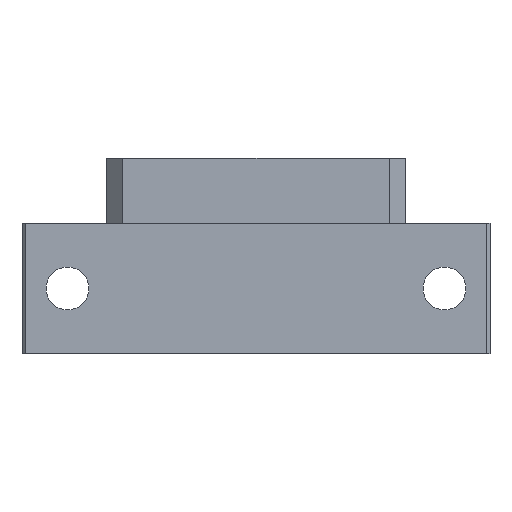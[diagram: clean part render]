
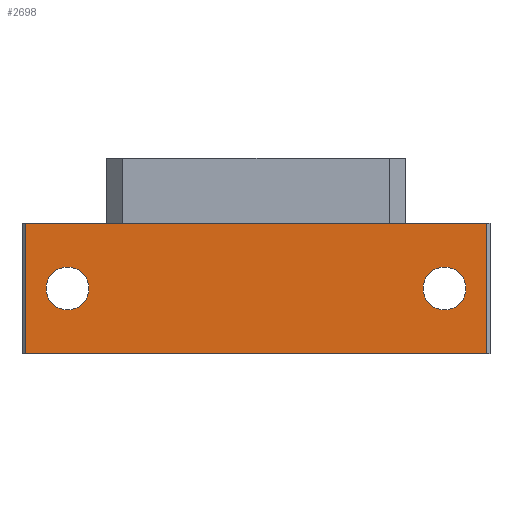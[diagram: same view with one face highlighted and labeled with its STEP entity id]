
A CAD part, front view. The second image highlights one B-rep face of the part: STEP entity #2698.
In plain terms, the highlighted planar face has unit normal (0, -1, 0).
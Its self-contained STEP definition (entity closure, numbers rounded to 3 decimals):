
#9 = CARTESIAN_POINT ( 'NONE',  ( -29., -25., 10. ) ) ;
#177 = EDGE_CURVE ( 'NONE', #5108, #4857, #1725, .T. ) ;
#210 = CARTESIAN_POINT ( 'NONE',  ( 35.5, -25., 20. ) ) ;
#317 = FACE_BOUND ( 'NONE', #1237, .T. ) ;
#364 = VERTEX_POINT ( 'NONE', #2347 ) ;
#372 = EDGE_CURVE ( 'NONE', #364, #614, #1652, .T. ) ;
#464 = LINE ( 'NONE', #2477, #1398 ) ;
#590 = LINE ( 'NONE', #5009, #4243 ) ;
#614 = VERTEX_POINT ( 'NONE', #5093 ) ;
#650 = VECTOR ( 'NONE', #702, 1000. ) ;
#702 = DIRECTION ( 'NONE',  ( 0., 0., -1. ) ) ;
#819 = DIRECTION ( 'NONE',  ( 1., 0., 0. ) ) ;
#988 = CARTESIAN_POINT ( 'NONE',  ( -29., -25., 6.7 ) ) ;
#1198 = DIRECTION ( 'NONE',  ( 0., 1., 0. ) ) ;
#1237 = EDGE_LOOP ( 'NONE', ( #3015, #3512 ) ) ;
#1275 = DIRECTION ( 'NONE',  ( 0., 0., 1. ) ) ;
#1398 = VECTOR ( 'NONE', #819, 1000. ) ;
#1566 = DIRECTION ( 'NONE',  ( 0., 0., 1. ) ) ;
#1573 = ORIENTED_EDGE ( 'NONE', *, *, #3698, .T. ) ;
#1596 = ORIENTED_EDGE ( 'NONE', *, *, #3717, .F. ) ;
#1652 = CIRCLE ( 'NONE', #3166, 3.3 ) ;
#1725 = CIRCLE ( 'NONE', #4771, 3.3 ) ;
#1779 = DIRECTION ( 'NONE',  ( 0., 0., -1. ) ) ;
#1934 = DIRECTION ( 'NONE',  ( 0., 1., 0. ) ) ;
#2055 = CIRCLE ( 'NONE', #2721, 3.3 ) ;
#2098 = ORIENTED_EDGE ( 'NONE', *, *, #4425, .F. ) ;
#2179 = DIRECTION ( 'NONE',  ( 1., 0., 0. ) ) ;
#2190 = VERTEX_POINT ( 'NONE', #2289 ) ;
#2205 = LINE ( 'NONE', #210, #3065 ) ;
#2230 = AXIS2_PLACEMENT_3D ( 'NONE', #3374, #2999, #4651 ) ;
#2260 = VERTEX_POINT ( 'NONE', #2771 ) ;
#2289 = CARTESIAN_POINT ( 'NONE',  ( -35.5, -25., 20. ) ) ;
#2320 = CARTESIAN_POINT ( 'NONE',  ( 29., -25., 10. ) ) ;
#2332 = CARTESIAN_POINT ( 'NONE',  ( 29., -25., 10. ) ) ;
#2347 = CARTESIAN_POINT ( 'NONE',  ( 29., -25., 6.7 ) ) ;
#2450 = DIRECTION ( 'NONE',  ( 0., -1., 0. ) ) ;
#2460 = DIRECTION ( 'NONE',  ( 0., 1., 0. ) ) ;
#2477 = CARTESIAN_POINT ( 'NONE',  ( -35.5, -25., 20. ) ) ;
#2486 = PLANE ( 'NONE',  #3535 ) ;
#2505 = DIRECTION ( 'NONE',  ( 0., 0., 1. ) ) ;
#2682 = LINE ( 'NONE', #4292, #650 ) ;
#2698 = ADVANCED_FACE ( 'NONE', ( #3550, #317, #4901 ), #2486, .F. ) ;
#2721 = AXIS2_PLACEMENT_3D ( 'NONE', #2332, #1934, #3946 ) ;
#2771 = CARTESIAN_POINT ( 'NONE',  ( 35.5, -25., 20. ) ) ;
#2841 = ORIENTED_EDGE ( 'NONE', *, *, #177, .F. ) ;
#2893 = EDGE_LOOP ( 'NONE', ( #1573, #1596, #2098, #3648 ) ) ;
#2999 = DIRECTION ( 'NONE',  ( 0., -1., 0. ) ) ;
#3015 = ORIENTED_EDGE ( 'NONE', *, *, #3902, .T. ) ;
#3065 = VECTOR ( 'NONE', #1779, 1000. ) ;
#3128 = CARTESIAN_POINT ( 'NONE',  ( -29., -25., 13.3 ) ) ;
#3166 = AXIS2_PLACEMENT_3D ( 'NONE', #2320, #1198, #1566 ) ;
#3305 = CARTESIAN_POINT ( 'NONE',  ( -35.5, -25., 20. ) ) ;
#3374 = CARTESIAN_POINT ( 'NONE',  ( -29., -25., 10. ) ) ;
#3457 = VERTEX_POINT ( 'NONE', #3587 ) ;
#3512 = ORIENTED_EDGE ( 'NONE', *, *, #372, .T. ) ;
#3535 = AXIS2_PLACEMENT_3D ( 'NONE', #3305, #2460, #2505 ) ;
#3550 = FACE_BOUND ( 'NONE', #4069, .T. ) ;
#3587 = CARTESIAN_POINT ( 'NONE',  ( 35.5, -25., 0. ) ) ;
#3648 = ORIENTED_EDGE ( 'NONE', *, *, #4628, .T. ) ;
#3676 = ORIENTED_EDGE ( 'NONE', *, *, #4458, .F. ) ;
#3698 = EDGE_CURVE ( 'NONE', #4334, #3457, #590, .T. ) ;
#3717 = EDGE_CURVE ( 'NONE', #2260, #3457, #2205, .T. ) ;
#3902 = EDGE_CURVE ( 'NONE', #614, #364, #2055, .T. ) ;
#3946 = DIRECTION ( 'NONE',  ( 0., 0., 1. ) ) ;
#4069 = EDGE_LOOP ( 'NONE', ( #2841, #3676 ) ) ;
#4243 = VECTOR ( 'NONE', #2179, 1000. ) ;
#4292 = CARTESIAN_POINT ( 'NONE',  ( -35.5, -25., 20. ) ) ;
#4334 = VERTEX_POINT ( 'NONE', #4354 ) ;
#4337 = CIRCLE ( 'NONE', #2230, 3.3 ) ;
#4354 = CARTESIAN_POINT ( 'NONE',  ( -35.5, -25., 0. ) ) ;
#4425 = EDGE_CURVE ( 'NONE', #2190, #2260, #464, .T. ) ;
#4458 = EDGE_CURVE ( 'NONE', #4857, #5108, #4337, .T. ) ;
#4628 = EDGE_CURVE ( 'NONE', #2190, #4334, #2682, .T. ) ;
#4651 = DIRECTION ( 'NONE',  ( 0., 0., 1. ) ) ;
#4771 = AXIS2_PLACEMENT_3D ( 'NONE', #9, #2450, #1275 ) ;
#4857 = VERTEX_POINT ( 'NONE', #988 ) ;
#4901 = FACE_OUTER_BOUND ( 'NONE', #2893, .T. ) ;
#5009 = CARTESIAN_POINT ( 'NONE',  ( -35.5, -25., 0. ) ) ;
#5093 = CARTESIAN_POINT ( 'NONE',  ( 29., -25., 13.3 ) ) ;
#5108 = VERTEX_POINT ( 'NONE', #3128 ) ;
